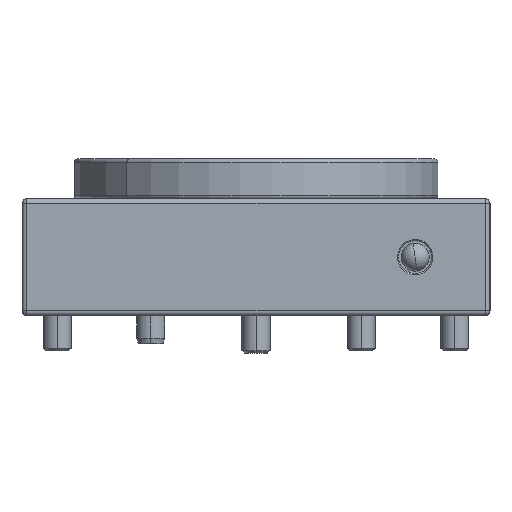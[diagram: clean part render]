
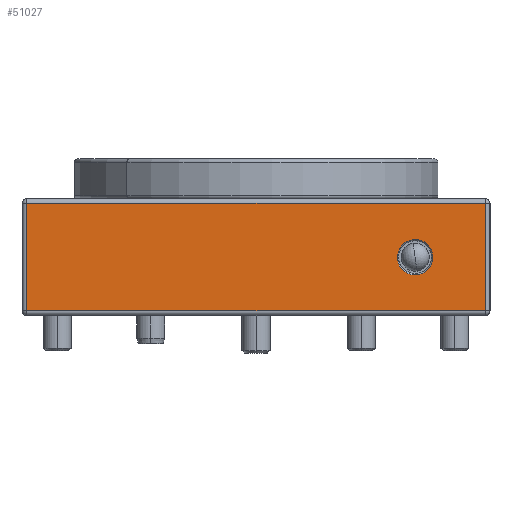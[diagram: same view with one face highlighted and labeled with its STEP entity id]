
A CAD part, left-side view. The second image highlights one B-rep face of the part: STEP entity #51027.
In plain terms, the highlighted planar face has unit normal (-1, 0, 0).
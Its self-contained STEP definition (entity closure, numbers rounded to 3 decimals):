
#250 = CIRCLE ( 'NONE', #39893, 3.8 ) ;
#4759 = EDGE_CURVE ( 'NONE', #7249, #55559, #57943, .T. ) ;
#6270 = VERTEX_POINT ( 'NONE', #52480 ) ;
#7249 = VERTEX_POINT ( 'NONE', #41407 ) ;
#8071 = CARTESIAN_POINT ( 'NONE',  ( -124.186, -35.764, 26.5 ) ) ;
#11717 = EDGE_CURVE ( 'NONE', #57432, #69029, #250, .T. ) ;
#14920 = CARTESIAN_POINT ( 'NONE',  ( -124.186, 63.236, 26.5 ) ) ;
#17797 = CARTESIAN_POINT ( 'NONE',  ( -124.186, -20.764, 0.2 ) ) ;
#17955 = DIRECTION ( 'NONE',  ( 0., 0., -1. ) ) ;
#19245 = CARTESIAN_POINT ( 'NONE',  ( -124.186, -35.764, 15.5 ) ) ;
#19314 = ORIENTED_EDGE ( 'NONE', *, *, #4759, .T. ) ;
#20340 = DIRECTION ( 'NONE',  ( 0., 0., -1. ) ) ;
#20590 = EDGE_CURVE ( 'NONE', #72738, #6270, #78551, .T. ) ;
#21516 = VECTOR ( 'NONE', #50882, 1000. ) ;
#21601 = EDGE_LOOP ( 'NONE', ( #29907, #41222 ) ) ;
#24557 = VECTOR ( 'NONE', #44254, 1000. ) ;
#25098 = VECTOR ( 'NONE', #17955, 1000. ) ;
#25627 = EDGE_CURVE ( 'NONE', #6270, #7249, #41817, .T. ) ;
#25754 = ORIENTED_EDGE ( 'NONE', *, *, #25627, .T. ) ;
#26124 = CARTESIAN_POINT ( 'NONE',  ( -124.186, 62.236, 15.5 ) ) ;
#27799 = DIRECTION ( 'NONE',  ( 1., 0., 0. ) ) ;
#29907 = ORIENTED_EDGE ( 'NONE', *, *, #11717, .T. ) ;
#30474 = EDGE_CURVE ( 'NONE', #69029, #57432, #53227, .T. ) ;
#30754 = AXIS2_PLACEMENT_3D ( 'NONE', #41324, #48481, #73174 ) ;
#33519 = CARTESIAN_POINT ( 'NONE',  ( -124.186, -20.764, 4. ) ) ;
#34063 = PLANE ( 'NONE',  #51383 ) ;
#36442 = LINE ( 'NONE', #8071, #76888 ) ;
#36607 = EDGE_LOOP ( 'NONE', ( #25754, #19314, #73981, #56659 ) ) ;
#38887 = EDGE_CURVE ( 'NONE', #55559, #72738, #36442, .T. ) ;
#39893 = AXIS2_PLACEMENT_3D ( 'NONE', #33519, #27799, #77028 ) ;
#41222 = ORIENTED_EDGE ( 'NONE', *, *, #30474, .T. ) ;
#41324 = CARTESIAN_POINT ( 'NONE',  ( -124.186, -20.764, 4. ) ) ;
#41407 = CARTESIAN_POINT ( 'NONE',  ( -124.186, 62.236, -7.5 ) ) ;
#41817 = LINE ( 'NONE', #67468, #25098 ) ;
#42298 = CARTESIAN_POINT ( 'NONE',  ( -124.186, -20.764, 7.8 ) ) ;
#44254 = DIRECTION ( 'NONE',  ( 0., -1., 0. ) ) ;
#45934 = DIRECTION ( 'NONE',  ( 1., 0., 0. ) ) ;
#48481 = DIRECTION ( 'NONE',  ( 1., 0., 0. ) ) ;
#50882 = DIRECTION ( 'NONE',  ( 0., 1., 0. ) ) ;
#51027 = ADVANCED_FACE ( 'NONE', ( #52128, #64002 ), #34063, .F. ) ;
#51383 = AXIS2_PLACEMENT_3D ( 'NONE', #14920, #45934, #20340 ) ;
#52128 = FACE_BOUND ( 'NONE', #21601, .T. ) ;
#52480 = CARTESIAN_POINT ( 'NONE',  ( -124.186, 62.236, 15.5 ) ) ;
#53227 = CIRCLE ( 'NONE', #30754, 3.8 ) ;
#55559 = VERTEX_POINT ( 'NONE', #57415 ) ;
#56659 = ORIENTED_EDGE ( 'NONE', *, *, #20590, .T. ) ;
#57415 = CARTESIAN_POINT ( 'NONE',  ( -124.186, -35.764, -7.5 ) ) ;
#57432 = VERTEX_POINT ( 'NONE', #42298 ) ;
#57943 = LINE ( 'NONE', #58536, #24557 ) ;
#58536 = CARTESIAN_POINT ( 'NONE',  ( -124.186, 63.236, -7.5 ) ) ;
#64002 = FACE_OUTER_BOUND ( 'NONE', #36607, .T. ) ;
#67468 = CARTESIAN_POINT ( 'NONE',  ( -124.186, 62.236, 26.5 ) ) ;
#69029 = VERTEX_POINT ( 'NONE', #17797 ) ;
#72738 = VERTEX_POINT ( 'NONE', #19245 ) ;
#73174 = DIRECTION ( 'NONE',  ( 0., 0., -1. ) ) ;
#73981 = ORIENTED_EDGE ( 'NONE', *, *, #38887, .T. ) ;
#76888 = VECTOR ( 'NONE', #77278, 1000. ) ;
#77028 = DIRECTION ( 'NONE',  ( 0., 0., -1. ) ) ;
#77278 = DIRECTION ( 'NONE',  ( 0., 0., 1. ) ) ;
#78551 = LINE ( 'NONE', #26124, #21516 ) ;
